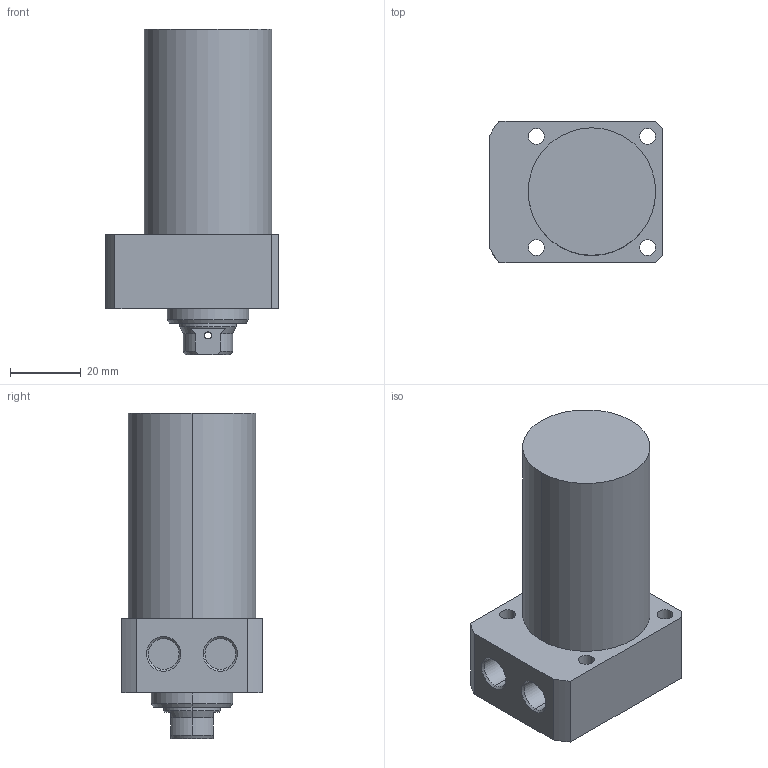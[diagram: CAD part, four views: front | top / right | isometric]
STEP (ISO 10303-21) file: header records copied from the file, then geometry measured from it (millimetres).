
FILE_DESCRIPTION (( 'STEP AP203' ), '1' );
FILE_NAME ('CLLR-036CB-050.STEP', '2019-12-20T00:26:09', ( '' ), ( '' ), 'SwSTEP 2.0', 'SolidWorks 2015', '' );
FILE_SCHEMA (( 'CONFIG_CONTROL_DESIGN' ));
Length unit declared in the file: millimetre
Products named in the file (1): CLLR-036CB-050
Bounding box: 49 x 40 x 92 mm (x, y, z)
Volume: 99718.1 mm3; surface area: 16672 mm2
Topology: 1 solids, 1 shells, 67 faces, 161 edges, 102 vertices
Faces by surface type: cylinder 33, plane 19, cone 15
Entity records: 2131 total; most frequent: CARTESIAN_POINT 429, DIRECTION 360, ORIENTED_EDGE 318, EDGE_CURVE 159, AXIS2_PLACEMENT_3D 145, VERTEX_POINT 102, EDGE_LOOP 87, CIRCLE 77
